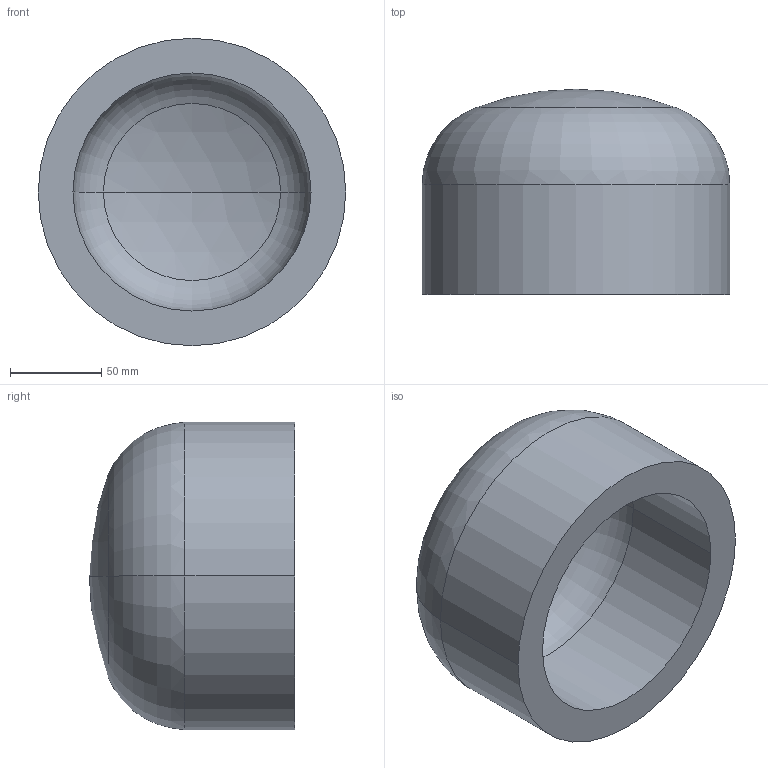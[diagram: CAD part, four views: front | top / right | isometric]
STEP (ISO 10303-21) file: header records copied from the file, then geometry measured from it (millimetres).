
FILE_DESCRIPTION (( 'STEP AP203' ), '1' );
FILE_NAME ('DIN 28013 Korbbogenform_-_Boden DIN 28013 - 168,3 x 60 - I - s=19.step', '2016-07-01T07:42:04', ( '' ), ( '' ), 'SwSTEP 2.0', 'SolidWorks 2013', '' );
FILE_SCHEMA (( 'CONFIG_CONTROL_DESIGN' ));
Length unit declared in the file: millimetre
Products named in the file (1): DIN 28013 Korbbogenform_-_Boden DIN 28013 - 168,3 x 60 - I - s=19
Bounding box: 168.3 x 112.27 x 168.3 mm (x, y, z)
Volume: 1044710.8 mm3; surface area: 119637.4 mm2
Topology: 1 solids, 1 shells, 13 faces, 24 edges, 14 vertices
Faces by surface type: torus 4, cylinder 4, sphere 4, plane 1
Entity records: 407 total; most frequent: DIRECTION 72, CARTESIAN_POINT 52, ORIENTED_EDGE 48, AXIS2_PLACEMENT_3D 34, EDGE_CURVE 24, CIRCLE 20, VERTEX_POINT 14, EDGE_LOOP 14
